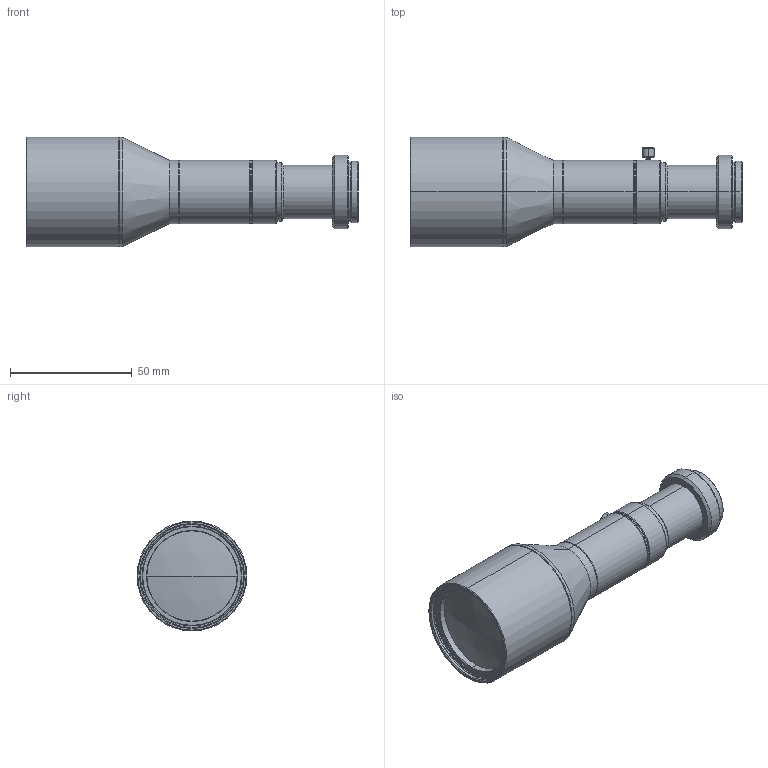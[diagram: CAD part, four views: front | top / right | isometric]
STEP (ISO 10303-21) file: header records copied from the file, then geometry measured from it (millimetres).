
FILE_DESCRIPTION (( 'STEP AP203' ), '1' );
FILE_NAME ('VS-TCM1-250_S.STEP', '2017-04-06T07:50:55', ( 'miura_vst' ), ( '' ), 'SwSTEP 2.0', 'SolidWorks 2017', '' );
FILE_SCHEMA (( 'CONFIG_CONTROL_DESIGN' ));
Length unit declared in the file: millimetre
Products named in the file (1): VS-TCM1-250_S
Bounding box: 136.17 x 45 x 45 mm (x, y, z)
Volume: 113714.1 mm3; surface area: 18117.1 mm2
Topology: 1 solids, 1 shells, 125 faces, 252 edges, 142 vertices
Faces by surface type: cone 66, cylinder 42, plane 13, sphere 4
Entity records: 3329 total; most frequent: DIRECTION 644, CARTESIAN_POINT 552, ORIENTED_EDGE 504, AXIS2_PLACEMENT_3D 268, EDGE_CURVE 252, VERTEX_POINT 142, CIRCLE 142, EDGE_LOOP 138
